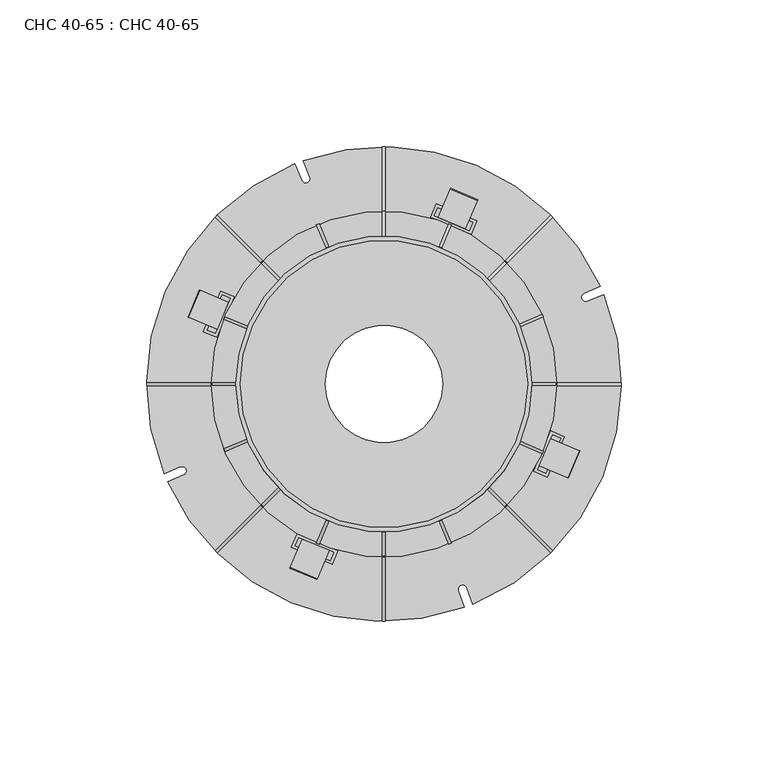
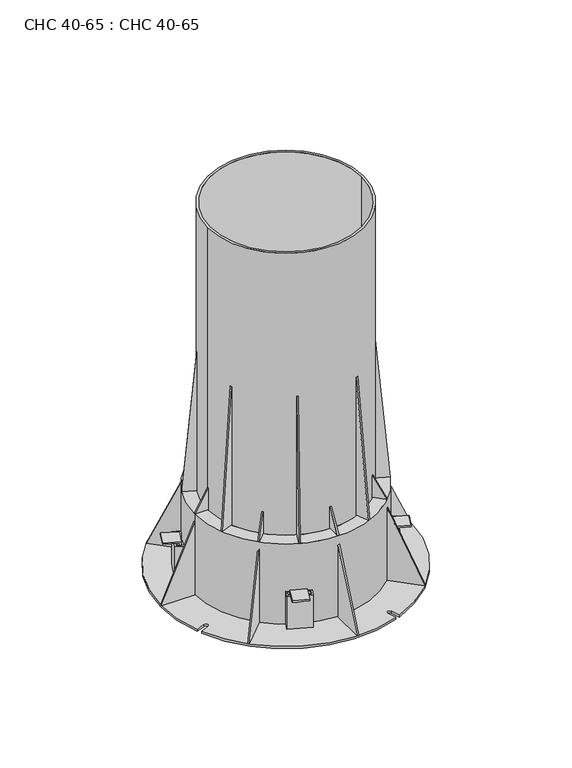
"""IFC4 building model written with IfcOpenShell, lengths in millimetres: proxy geometry, CHC 40-65 : CHC 40-65."""

import ifcopenshell
import ifcopenshell.guid

model = None  # the IFC model being written
_history = None  # IfcOwnerHistory: only IFC2X3 demands one
_inside = {}  # id of a spatial element -> (the spatial element, [elements in it])
_under = {}  # id of a project, library or spatial element -> (it, [spatial elements below it])
_declared = {}  # id of a project -> (the project, [libraries it declares])
_typed = {}  # id of a type object -> (the type object, [elements of that type])
_made_of = {}  # id of a material, layer set ... -> (it, [elements and type objects made of it])


def new_model(schema):
    """Start an empty IFC model of exactly this schema.

    Asked for "IFC4X3", IfcOpenShell would pick the latest addendum, in which some entities
    have other attributes; the version numbers below select the first issue.
    IFC2X3 requires an IfcOwnerHistory on every rooted entity: one is made here for all.
    """
    global model, _history
    if schema == "IFC4X3":
        model = ifcopenshell.file(schema_version=(4, 3, 0, 0))
    else:
        model = ifcopenshell.file(schema=schema)
    _inside.clear()
    _under.clear()
    _declared.clear()
    _typed.clear()
    _made_of.clear()
    _history = None
    if model.schema == "IFC2X3":
        org = make("IfcOrganization", Name="unknown")
        user = make(
            "IfcPersonAndOrganization",
            ThePerson=make("IfcPerson", FamilyName="unknown"),
            TheOrganization=org,
        )
        app = make(
            "IfcApplication",
            ApplicationDeveloper=org,
            Version="unknown",
            ApplicationFullName="unknown",
            ApplicationIdentifier="unknown",
        )
        _history = make(
            "IfcOwnerHistory",
            OwningUser=user,
            OwningApplication=app,
            ChangeAction="ADDED",
            CreationDate=0,
        )
    return model


def make(cls, **values):
    """One entity of the class cls with the attributes given. An attribute that is None is left unset."""
    return model.create_entity(
        cls, **{name: value for name, value in values.items() if value is not None}
    )


def rooted(cls, **values):
    """An entity with a GlobalId (a new one), such as an element, a storey or a relation."""
    return make(cls, GlobalId=ifcopenshell.guid.new(), OwnerHistory=_history, **values)


def si_unit(unit_type, name, prefix=None):
    """IfcSIUnit, for example si_unit("LENGTHUNIT", "METRE", prefix="MILLI")."""
    return make("IfcSIUnit", UnitType=unit_type, Prefix=prefix, Name=name)


def assignment(units):
    """IfcUnitAssignment: the units of a project."""
    return None if units is None else make("IfcUnitAssignment", Units=units)


def point(xyz):
    """IfcCartesianPoint."""
    return None if xyz is None else make("IfcCartesianPoint", Coordinates=xyz)


def direction(xyz):
    """IfcDirection."""
    return None if xyz is None else make("IfcDirection", DirectionRatios=xyz)


def frame(location, z_axis=None, x_axis=None):
    """IfcAxis2Placement3D, a coordinate frame: its origin and axes. An axis left out is left unset."""
    return make(
        "IfcAxis2Placement3D",
        Location=point(location),
        Axis=direction(z_axis),
        RefDirection=direction(x_axis),
    )


def frame_2d(location, x_axis=None):
    """IfcAxis2Placement2D, a coordinate frame in the plane: its origin and x axis."""
    return make(
        "IfcAxis2Placement2D", Location=point(location), RefDirection=direction(x_axis)
    )


def origin():
    """The frame at (0, 0, 0) with its axes left unset."""
    return frame((0.0, 0.0, 0.0))


def origin_with_axes():
    """The frame at (0, 0, 0) with the z axis (0, 0, 1) and the x axis (1, 0, 0) written out."""
    return frame((0.0, 0.0, 0.0), z_axis=(0.0, 0.0, 1.0), x_axis=(1.0, 0.0, 0.0))


def origin_2d():
    """The frame at (0, 0) in the plane with its x axis left unset."""
    return frame_2d((0.0, 0.0))


def place(relative_to, where):
    """IfcLocalPlacement: puts the frame where relative to a parent placement (None: the world)."""
    return make(
        "IfcLocalPlacement", PlacementRelTo=relative_to, RelativePlacement=where
    )


def context(
    kind, dimensions, precision=None, world=None, true_north=None, identifier=None
):
    """IfcGeometricRepresentationContext, for example the 3D "Model" context."""
    return make(
        "IfcGeometricRepresentationContext",
        ContextIdentifier=identifier,
        ContextType=kind,
        CoordinateSpaceDimension=dimensions,
        Precision=precision,
        WorldCoordinateSystem=world,
        TrueNorth=true_north,
    )


def project(units=None, contexts=None):
    """IfcProject with its units and contexts."""
    return rooted(
        "IfcProject",
        Name="project",
        RepresentationContexts=contexts,
        UnitsInContext=assignment(units),
    )


def spatial(cls, under=None, at=None, **own):
    """A site, building, storey or space (cls), placed at a placement, below another one or the project."""
    s = rooted(cls, ObjectPlacement=at, **own)
    if under is not None:
        _under.setdefault(under.id(), (under, []))[1].append(s)
    return s


def polyline(points):
    """IfcPolyline through the points."""
    return make("IfcPolyline", Points=[point(p) for p in points])


def circle_curve(where, radius):
    """IfcCircle in the frame where."""
    return make("IfcCircle", Position=where, Radius=radius)


def ellipse_curve(where, semi_axis1, semi_axis2):
    """IfcEllipse in the frame where."""
    return make(
        "IfcEllipse", Position=where, SemiAxis1=semi_axis1, SemiAxis2=semi_axis2
    )


def trimmed(basis, trim1, trim2, sense, master):
    """IfcTrimmedCurve: the piece of a basis curve between two trims."""
    return make(
        "IfcTrimmedCurve",
        BasisCurve=basis,
        Trim1=trim1,
        Trim2=trim2,
        SenseAgreement=sense,
        MasterRepresentation=master,
    )


def segment(curve, same_sense, transition):
    """IfcCompositeCurveSegment."""
    return make(
        "IfcCompositeCurveSegment",
        Transition=transition,
        SameSense=same_sense,
        ParentCurve=curve,
    )


def composite_curve(segments, self_intersect=None):
    """IfcCompositeCurve: segments joined end to end."""
    return make("IfcCompositeCurve", Segments=segments, SelfIntersect=self_intersect)


def outline(outer, holes=None, kind="AREA"):
    """IfcArbitraryClosedProfileDef: a profile drawn as a closed curve; with holes, ...WithVoids."""
    if holes is None:
        return make("IfcArbitraryClosedProfileDef", ProfileType=kind, OuterCurve=outer)
    return make(
        "IfcArbitraryProfileDefWithVoids",
        ProfileType=kind,
        OuterCurve=outer,
        InnerCurves=holes,
    )


def extrude(swept, where, along, depth):
    """IfcExtrudedAreaSolid: the profile swept, set in the frame where, extruded along a direction by depth."""
    return make(
        "IfcExtrudedAreaSolid",
        SweptArea=swept,
        Position=where,
        ExtrudedDirection=direction(along),
        Depth=depth,
    )


def shape(context_of_items, identifier, shape_type, items):
    """IfcShapeRepresentation: the items that make up one representation, for example the "Body"."""
    return make(
        "IfcShapeRepresentation",
        ContextOfItems=context_of_items,
        RepresentationIdentifier=identifier,
        RepresentationType=shape_type,
        Items=items,
    )


def source(mapping_origin, context_of_items, identifier, shape_type, items):
    """IfcRepresentationMap: a shape defined once, which mapped items show again and again."""
    return make(
        "IfcRepresentationMap",
        MappingOrigin=mapping_origin,
        MappedRepresentation=shape(context_of_items, identifier, shape_type, items),
    )


def transform(
    local_origin,
    x_axis=None,
    y_axis=None,
    z_axis=None,
    scale=None,
    scale2=None,
    scale3=None,
    uniform=True,
):
    """IfcCartesianTransformationOperator3D, or its non-uniform kind. x_axis, y_axis, z_axis: its Axis1, 2, 3."""
    if uniform:
        return make(
            "IfcCartesianTransformationOperator3D",
            Axis1=direction(x_axis),
            Axis2=direction(y_axis),
            LocalOrigin=point(local_origin),
            Scale=scale,
            Axis3=direction(z_axis),
        )
    return make(
        "IfcCartesianTransformationOperator3DnonUniform",
        Axis1=direction(x_axis),
        Axis2=direction(y_axis),
        LocalOrigin=point(local_origin),
        Scale=scale,
        Axis3=direction(z_axis),
        Scale2=scale2,
        Scale3=scale3,
    )


def mapped(mapping_source, mapping_target):
    """IfcMappedItem: shows the shape of a source again, moved by a transform."""
    return make(
        "IfcMappedItem", MappingSource=mapping_source, MappingTarget=mapping_target
    )


def made_of(thing, what):
    """Note that an element or type object is made of a material, layer set ...; save() writes the relation."""
    if what is not None:
        _made_of.setdefault(what.id(), (what, []))[1].append(thing)
    return thing


def element(
    cls,
    number,
    at=None,
    inside=None,
    cuts=None,
    type_object=None,
    material=None,
    context=None,
    identifier="Body",
    shape_type=None,
    held_by="IfcProductDefinitionShape",
    body=None,
    shapes=None,
    **own,
):
    """One element of the class cls, such as IfcWall. Its Tag is "e" and its number.

    at: its placement. inside: the storey or other place that contains it. cuts: it is an
    opening in that element (IfcRelVoidsElement). A single representation is given by context,
    identifier, shape_type and body (its items); several are given by shapes. held_by: the class
    of the entity that holds the representations. save() writes the other relations.
    """
    e = rooted(cls, Tag="e%d" % number, ObjectPlacement=at, **own)
    if body is not None:
        shapes = [shape(context, identifier, shape_type, body)]
    if shapes is not None:
        e.Representation = make(held_by, Representations=shapes)
    if inside is not None:
        _inside.setdefault(inside.id(), (inside, []))[1].append(e)
    if cuts is not None:
        rooted(
            "IfcRelVoidsElement", RelatingBuildingElement=cuts, RelatedOpeningElement=e
        )
    if type_object is not None:
        _typed.setdefault(type_object.id(), (type_object, []))[1].append(e)
    return made_of(e, material)


def aggregate(whole, parts):
    """IfcRelAggregates: a whole, such as a stair, and the parts it consists of."""
    return rooted("IfcRelAggregates", RelatingObject=whole, RelatedObjects=parts)


def save(model, path):
    """Write the relations noted so far, then the file.

    IfcRelAggregates (storeys below a building ...), IfcRelContainedInSpatialStructure (elements
    in a storey), IfcRelDefinesByType, IfcRelAssociatesMaterial and IfcRelDeclares: one each for
    every whole, place, type object, material and project.
    """
    for whole, parts in _under.values():
        aggregate(whole, parts)
    for where, things in _inside.values():
        rooted(
            "IfcRelContainedInSpatialStructure",
            RelatedElements=things,
            RelatingStructure=where,
        )
    for kind, things in _typed.values():
        rooted("IfcRelDefinesByType", RelatedObjects=things, RelatingType=kind)
    for what, things in _made_of.values():
        rooted("IfcRelAssociatesMaterial", RelatedObjects=things, RelatingMaterial=what)
    for by, libraries in _declared.values():
        rooted("IfcRelDeclares", RelatingContext=by, RelatedDefinitions=libraries)
    model.write(path)


def plane_surface(at):
    """IfcPlane: the flat surface through the origin of the frame at, square to its z axis."""
    return make("IfcPlane", Position=at)


def cylinder_surface(at, radius):
    """IfcCylindricalSurface: all points at the distance radius from the z axis of the frame at."""
    return make("IfcCylindricalSurface", Position=at, Radius=radius)


def revolved_surface(curve, axis_point, axis_direction):
    """IfcSurfaceOfRevolution: the curve turned about the line through axis_point along axis_direction."""
    return make(
        "IfcSurfaceOfRevolution",
        SweptCurve=make("IfcArbitraryOpenProfileDef", ProfileType="CURVE", Curve=curve),
        AxisPosition=make("IfcAxis1Placement", Location=point(axis_point), Axis=direction(axis_direction)),
    )


def extruded_surface(curve, direction_of_extrusion, depth):
    """IfcSurfaceOfLinearExtrusion: the curve pushed along a direction by depth."""
    return make(
        "IfcSurfaceOfLinearExtrusion",
        SweptCurve=make("IfcArbitraryOpenProfileDef", ProfileType="CURVE", Curve=curve),
        ExtrudedDirection=direction(direction_of_extrusion),
        Depth=depth,
    )


def advanced_brep(points, edges, surfaces, faces):
    """IfcAdvancedBrep: a solid bounded by faces that lie on surfaces and meet in shared edges.

    An edge is (start, end): straight between two places in points (the first is 0);
    or (start, end, curve); or (start, end, curve, False) where it runs against its curve.
    A face is (place in surfaces, loops), or (place, loops, False) where it looks against
    its surface's normal. A loop lists edges by number (the first is 1), with a minus sign
    where the edge is run from its end to its start. The first loop is the outer one.
    """
    corners = [point(p) for p in points]
    vertices = [make("IfcVertexPoint", VertexGeometry=c) for c in corners]
    made = []
    for start, end, *more in edges:
        made.append(
            make(
                "IfcEdgeCurve",
                EdgeStart=vertices[start],
                EdgeEnd=vertices[end],
                EdgeGeometry=more[0] if more else make("IfcPolyline", Points=[corners[start], corners[end]]),
                SameSense=more[1] if len(more) > 1 else True,
            )
        )
    hull = []
    for where, loops, *sense in faces:
        bounds = []
        for j, loop in enumerate(loops):
            ring = [make("IfcOrientedEdge", EdgeElement=made[abs(k) - 1], Orientation=k > 0) for k in loop]
            bounds.append(
                make(
                    "IfcFaceOuterBound" if j == 0 else "IfcFaceBound",
                    Bound=make("IfcEdgeLoop", EdgeList=ring),
                    Orientation=True,
                )
            )
        hull.append(make("IfcAdvancedFace", Bounds=bounds, FaceSurface=surfaces[where], SameSense=sense[0] if sense else True))
    return make("IfcAdvancedBrep", Outer=make("IfcClosedShell", CfsFaces=hull))


def chc_40_65_chc_40_65_852ca478(model_context):
    return source(origin(), model_context, "Body", "SolidModel", [
        advanced_brep(
        [(59.0, 0.0, 56.5), (-59.0, 0.0, 56.5), (-50.5, 0.0, 56.5), (50.5, 0.0, 56.5), (59.0, 0.0, 1.5), (-59.0, 0.0, 1.5), (40.0, 0.0, 1.5), (-40.0, 0.0, 1.5), (-50.5, 0.0, 39.0), (50.5, 0.0, 39.0), (40.0, 0.0, 39.0), (-40.0, 0.0, 39.0)],
        [
            (0, 1, circle_curve(frame((0.0, 0.0, 56.5), z_axis=(0.0, 0.0, 1.0), x_axis=(1.0, 0.0, 0.0)), 59.0)),
            (1, 0, circle_curve(frame((0.0, 0.0, 56.5), z_axis=(0.0, 0.0, 1.0), x_axis=(1.0, 0.0, 0.0)), 59.0)),
            (2, 3, circle_curve(frame((0.0, 0.0, 56.5), z_axis=(0.0, 0.0, -1.0), x_axis=(1.0, 0.0, 0.0)), 50.5)),
            (3, 2, circle_curve(frame((0.0, 0.0, 56.5), z_axis=(0.0, 0.0, -1.0), x_axis=(1.0, 0.0, 0.0)), 50.5)),
            (4, 5, circle_curve(frame((0.0, 0.0, 1.5), z_axis=(0.0, 0.0, -1.0), x_axis=(1.0, 0.0, 0.0)), 59.0)),
            (5, 4, circle_curve(frame((0.0, 0.0, 1.5), z_axis=(0.0, 0.0, -1.0), x_axis=(1.0, 0.0, 0.0)), 59.0)),
            (6, 7, circle_curve(frame((0.0, 0.0, 1.5), z_axis=(0.0, 0.0, 1.0), x_axis=(1.0, 0.0, 0.0)), 40.0)),
            (7, 6, circle_curve(frame((0.0, 0.0, 1.5), z_axis=(0.0, 0.0, 1.0), x_axis=(1.0, 0.0, 0.0)), 40.0)),
            (2, 8),
            (8, 9, circle_curve(frame((0.0, 0.0, 39.0), z_axis=(0.0, 0.0, -1.0), x_axis=(1.0, 0.0, 0.0)), 50.5)),
            (9, 3),
            (9, 8, circle_curve(frame((0.0, 0.0, 39.0), z_axis=(0.0, 0.0, -1.0), x_axis=(1.0, 0.0, 0.0)), 50.5)),
            (0, 4),
            (5, 1),
            (10, 11, circle_curve(frame((0.0, 0.0, 39.0), z_axis=(0.0, 0.0, -1.0), x_axis=(1.0, 0.0, 0.0)), 40.0)),
            (11, 10, circle_curve(frame((0.0, 0.0, 39.0), z_axis=(0.0, 0.0, -1.0), x_axis=(1.0, 0.0, 0.0)), 40.0)),
            (10, 6),
            (7, 11),
        ],
        [
            plane_surface(frame((50.5, 0.0, 56.5), z_axis=(0.0, 0.0, 1.0), x_axis=(0.0, -1.0, 0.0))),
            plane_surface(frame((50.5, 0.0, 1.5), z_axis=(0.0, 0.0, -1.0), x_axis=(0.0, 1.0, 0.0))),
            revolved_surface(polyline([(50.5, 0.0, 39.0), (50.5, 0.0, 56.5)]), (0.0, 0.0, 1.5), (0.0, 0.0, -1.0)),
            cylinder_surface(frame((0.0, 0.0, 1.5), z_axis=(0.0, 0.0, 1.0), x_axis=(1.0, 0.0, 0.0)), 59.0),
            plane_surface(frame((54.0, 0.0, 39.0), z_axis=(0.0, 0.0, 1.0), x_axis=(0.0, 1.0, 0.0))),
            revolved_surface(polyline([(40.0, 0.0, 1.5), (40.0, 0.0, 39.0)]), (0.0, 0.0, 1.0), (0.0, 0.0, -1.0)),
        ],
        [
            (0, [[1, 2], [3, 4]]),
            (1, [[5, 6], [7, 8]]),
            (2, [[-3, 9, 10, 11]]),
            (2, [[-4, -11, 12, -9]]),
            (3, [[-1, 13, -6, 14]]),
            (3, [[-2, -14, -5, -13]]),
            (4, [[-10, -12], [15, 16]]),
            (5, [[-15, 17, -8, 18]]),
            (5, [[-16, -18, -7, -17]]),
        ],
    ),
        extrude(outline(composite_curve([segment(trimmed(circle_curve(origin_2d(), 52.0), [point((24.7583425, 45.7277211))], [point((49.6213596, -15.5473685))], False, "CARTESIAN"), True, "CONTINUOUS"), segment(polyline([(49.6213596, -15.5473685), (56.7505693, -18.5609991), (52.8569897, -27.7718643), (45.72778, -24.7582337)]), True, "CONTINUOUS"), segment(trimmed(circle_curve(origin_2d(), 52.0), [point((45.72778, -24.7582337))], [point((-15.6888479, -49.5768096))], False, "CARTESIAN"), True, "CONTINUOUS"), segment(polyline([(-15.6888479, -49.5768096), (-18.6913381, -56.6797235), (-27.9022148, -52.7861712), (-24.8886054, -45.6569526)]), True, "CONTINUOUS"), segment(trimmed(circle_curve(origin_2d(), 52.0), [point((-24.8886054, -45.6569526))], [point((-49.6193646, 15.5537345))], False, "CARTESIAN"), True, "CONTINUOUS"), segment(polyline([(-49.6193646, 15.5537345), (-56.7481876, 18.5682797), (-52.8534263, 27.7786453), (-45.7246033, 24.7641001)]), True, "CONTINUOUS"), segment(trimmed(circle_curve(origin_2d(), 52.0), [point((-45.7246033, 24.7641001))], [point((15.5474866, 49.6213226))], False, "CARTESIAN"), True, "CONTINUOUS"), segment(polyline([(15.5474866, 49.6213226), (18.5611342, 56.7505251), (27.7719901, 52.8569236), (24.7583425, 45.7277211)]), True, "CONTINUOUS")], self_intersect=False), holes=[composite_curve([segment(trimmed(circle_curve(origin_2d(), 40.0), [point((-40.0, 0.0))], [point((40.0, 0.0))], True, "CARTESIAN"), True, "CONTINUOUS"), segment(trimmed(circle_curve(origin_2d(), 40.0), [point((40.0, 0.0))], [point((-40.0, 0.0))], True, "CARTESIAN"), True, "CONTINUOUS")], self_intersect=False)]), frame((0.0, 0.0, 5.0), z_axis=(0.0, 0.0, 1.0), x_axis=(1.0, 0.0, 0.0)), (0.0, 0.0, 1.0), 1.0),
        extrude(outline(polyline([(51.5, -59.0), (1.5, -81.0024753), (1.5, -59.0), (51.5, -59.0)])), frame((0.0, -0.5, 0.0), z_axis=(0.0, 1.0, 0.0), x_axis=(0.0, 0.0, 1.0)), (0.0, 0.0, 1.0), 1.0),
        extrude(outline(polyline([(0.0, 0.0), (54.6260011, 0.0), (45.7657516, -20.1369307), (0.0, 0.0)])), frame((-42.0711032, 41.3639964, 51.5), z_axis=(0.7071067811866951, 0.7071067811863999, 0.0), x_axis=(-0.28477920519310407, 0.28477920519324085, -0.9153150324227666)), (0.0, 0.0, 1.0), 1.0),
        extrude(outline(polyline([(50.0, 0.0), (0.0, -22.0), (0.0, 0.0), (50.0, 0.0)])), frame((-0.5, 58.9978813, 1.5), z_axis=(1.0, -2.8820179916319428e-11, -9.285588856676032e-12), x_axis=(9.285588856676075e-12, 0.0, 1.0)), (0.0, 0.0, 1.0), 1.0),
        extrude(outline(polyline([(-50.0, 0.0), (0.0, 0.0), (0.0, -22.0), (-50.0, 0.0)])), frame((42.0711032, 41.3639964, 1.5), z_axis=(-0.7071067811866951, 0.7071067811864, 0.0), x_axis=(0.0, 0.0, -1.0)), (0.0, 0.0, 1.0), 1.0),
        extrude(outline(polyline([(51.5, 59.0), (1.5, 59.0), (1.5, 81.0), (51.5, 59.0)])), frame((0.0, -0.5, 0.0), z_axis=(0.0, 1.0, 0.0), x_axis=(0.0, 0.0, 1.0)), (0.0, 0.0, 1.0), 1.0),
        extrude(outline(polyline([(0.0, 0.0), (-45.7657516, -20.1369307), (-54.6260011, 0.0), (0.0, 0.0)])), frame((-0.5, -58.9978813, 51.5), z_axis=(1.0, 2.8820179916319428e-11, -9.28558885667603e-12), x_axis=(-3.1077602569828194e-12, 0.4027386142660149, 0.9153150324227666)), (0.0, 0.0, 1.0), 1.0),
        extrude(outline(polyline([(0.0, 0.0), (-45.7657516, -20.1369307), (-54.6260011, 0.0), (0.0, 0.0)])), frame((41.3639964, -42.0711032, 51.5), z_axis=(0.7071067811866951, 0.7071067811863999, 0.0), x_axis=(-0.28477920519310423, 0.28477920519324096, 0.9153150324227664)), (0.0, 0.0, 1.0), 1.0),
        extrude(outline(polyline([(50.0, 0.0), (0.0, -22.0024753), (0.0, 0.0), (50.0, 0.0)])), frame((-41.3639964, -42.0711032, 1.5), z_axis=(-0.7071067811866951, 0.7071067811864, 0.0), x_axis=(0.0, 0.0, 1.0)), (0.0, 0.0, 1.0), 1.0),
        extrude(outline(polyline([(-95.3795051, 0.0), (0.0, 0.0), (-0.7575003, -8.4661794), (-95.3795051, 0.0)])), frame((-54.6594977, 22.0995095, 56.5), z_axis=(0.382691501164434, 0.9238761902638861, 9.285593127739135e-12), x_axis=(-0.08233370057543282, 0.03410457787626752, -0.9960211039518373)), (0.0, 0.0, 1.0), 1.0),
        extrude(outline(polyline([(95.0, 0.0), (0.0, -8.5), (0.0, 0.0), (95.0, 0.0)])), frame((-46.4238586, -19.7705079, 56.5), z_axis=(-0.3826915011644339, 0.923876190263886, -9.285588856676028e-12), x_axis=(-3.5549335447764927e-12, 8.5781472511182e-12, 1.0)), (0.0, 0.0, 1.0), 1.0),
        extrude(outline(polyline([(95.3795051, 0.0), (0.7575003, -8.4661794), (0.0, 0.0), (95.3795051, 0.0)])), frame((23.0233857, 54.2768062, 56.5), z_axis=(-0.9238761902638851, 0.38269150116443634, -9.285593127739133e-12), x_axis=(-0.034104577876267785, -0.08233370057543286, 0.9960211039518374)), (0.0, 0.0, 1.0), 1.0),
        extrude(outline(polyline([(95.3795051, 0.0), (0.7575003, -8.4661794), (0.0, 0.0), (95.3795051, 0.0)])), frame((54.3572876, 22.9409087, 56.5), z_axis=(-0.39973159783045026, 0.9166322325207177, -9.285579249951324e-12), x_axis=(-0.08168813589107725, -0.03562315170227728, 0.9960211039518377)), (0.0, 0.0, 1.0), 1.0),
        extrude(outline(polyline([(95.0, 0.0), (0.0, -8.5), (0.0, 0.0), (95.0, 0.0)])), frame((-19.7705079, 46.4238586, 56.5), z_axis=(0.9238761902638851, 0.3826915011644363, -9.285588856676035e-12), x_axis=(8.578147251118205e-12, 3.5549335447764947e-12, 1.0)), (0.0, 0.0, 1.0), 1.0),
        extrude(outline(polyline([(-95.0, 0.0), (0.0, 0.0), (0.0, -8.5), (-95.0, 0.0)])), frame((18.8466317, -46.8065501, 56.5), z_axis=(0.9238761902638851, 0.3826915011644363, 9.285588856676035e-12), x_axis=(8.578147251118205e-12, 3.5549335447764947e-12, -1.0)), (0.0, 0.0, 1.0), 1.0),
        extrude(outline(polyline([(-95.0, 0.0), (0.0, 0.0), (0.0, -8.5), (-95.0, 0.0)])), frame((46.166182, -20.4598223, 56.5), z_axis=(0.3997315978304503, 0.9166322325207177, 9.285588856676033e-12), x_axis=(3.710334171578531e-12, 8.512084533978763e-12, -1.0)), (0.0, 0.0, 1.0), 1.0),
        extrude(outline(polyline([(-95.3795051, 0.0), (0.0, 0.0), (-0.7575003, -8.4661794), (-95.3795051, 0.0)])), frame((-22.0995095, -54.6594977, 56.5), z_axis=(-0.9238761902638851, 0.38269150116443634, 9.285593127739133e-12), x_axis=(-0.034104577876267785, -0.08233370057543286, -0.9960211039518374)), (0.0, 0.0, 1.0), 1.0),
        extrude(outline(polyline([(0.0, 0.0), (-13.0503328, -7.3951886), (-17.2409397, 0.0), (0.0, 0.0)])), frame((35.3535888, -36.0606955, 71.5), z_axis=(0.7071067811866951, 0.7071067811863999, 0.0), x_axis=(-0.3486125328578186, 0.3486125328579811, 0.8700221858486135)), (0.0, 0.0, 1.0), 1.0),
        extrude(outline(polyline([(15.0, 0.0), (0.0, -8.5), (0.0, 0.0), (15.0, 0.0)])), frame((-35.3535888, -36.0606955, 56.5), z_axis=(-0.7071067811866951, 0.7071067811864, 0.0), x_axis=(0.0, 0.0, 1.0)), (0.0, 0.0, 1.0), 1.0),
        extrude(outline(polyline([(-15.0, 0.0), (0.0, 0.0), (0.0, -8.5), (-15.0, 0.0)])), frame((36.0606955, 35.3535888, 56.5), z_axis=(-0.7071067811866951, 0.7071067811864, 0.0), x_axis=(0.0, 0.0, -1.0)), (0.0, 0.0, 1.0), 1.0),
        extrude(outline(polyline([(0.0, 0.0), (17.2409397, 0.0), (13.0503328, -7.3951886), (0.0, 0.0)])), frame((-36.0606955, 35.3535888, 71.5), z_axis=(0.7071067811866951, 0.7071067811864, 0.0), x_axis=(-0.3486125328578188, 0.3486125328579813, -0.8700221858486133)), (0.0, 0.0, 1.0), 1.0),
        extrude(outline(polyline([(71.5, -50.5), (56.5, -59.0), (56.5, -50.5), (71.5, -50.5)])), frame((0.0, -0.5, 0.0), z_axis=(0.0, 1.0, 0.0), x_axis=(0.0, 0.0, 1.0)), (0.0, 0.0, 1.0), 1.0),
        extrude(outline(polyline([(71.5, 50.5), (56.5, 50.5), (56.5, 59.0), (71.5, 50.5)])), frame((0.0, -0.5, 0.0), z_axis=(0.0, 1.0, 0.0), x_axis=(0.0, 0.0, 1.0)), (0.0, 0.0, 1.0), 1.0),
        extrude(outline(polyline([(0.0, 0.0), (-13.0503328, -7.3951886), (-17.2409396, 0.0), (0.0, 0.0)])), frame((-0.5, -50.4978813, 71.5), z_axis=(1.0, 2.8820179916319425e-11, -9.285588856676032e-12), x_axis=(-6.130042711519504e-12, 0.49301257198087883, 0.8700221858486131)), (0.0, 0.0, 1.0), 1.0),
        extrude(outline(polyline([(15.0, 0.0), (0.0, -8.5), (0.0, 0.0), (15.0, 0.0)])), frame((-0.5, 50.4978813, 56.5), z_axis=(1.0, -2.8820179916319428e-11, -9.285588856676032e-12), x_axis=(9.28558885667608e-12, 0.0, 1.0)), (0.0, 0.0, 1.0), 1.0),
        advanced_brep(
        [(-18.7307472, -56.773359, 25.4), (-22.8189851, -66.4447762, 25.4), (-22.8189851, -66.4447762, 24.4), (-19.1201032, -57.6944464, 24.4), (-19.1201032, -57.6944464, 1.0), (-18.7307472, -56.773359, 1.0), (-27.9416207, -52.8797991, 25.4), (-27.9416207, -52.8797991, 1.0), (-28.3309767, -53.8008865, 1.0), (-28.3309767, -53.8008865, 24.4), (-32.0298586, -62.5512163, 24.4), (-32.0298586, -62.5512163, 25.4)],
        [
            (0, 1),
            (1, 2, ellipse_curve(frame((-22.8189851, -66.4447762, 24.9), z_axis=(0.9210873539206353, -0.38935598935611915, 0.0), x_axis=(0.0, 0.0, 1.0)), 0.5, 0.25)),
            (2, 3),
            (3, 4),
            (4, 5),
            (5, 0),
            (6, 7),
            (7, 8),
            (8, 9),
            (9, 10),
            (10, 11, ellipse_curve(frame((-32.0298586, -62.5512163, 24.9), z_axis=(-0.9210873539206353, 0.38935598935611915, 0.0), x_axis=(0.0, 0.0, 1.0)), 0.5, 0.25)),
            (11, 6),
            (0, 6),
            (11, 1),
            (10, 2),
            (9, 3),
            (8, 4),
            (7, 5),
        ],
        [
            plane_surface(frame((-18.7307472, -56.773359, 25.4), z_axis=(0.9210873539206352, -0.38935598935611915, 0.0), x_axis=(-0.38935598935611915, -0.9210873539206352, 0.0))),
            plane_surface(frame((-27.9416207, -52.8797991, 25.4), z_axis=(-0.9210873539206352, 0.38935598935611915, 0.0), x_axis=(0.38935598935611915, 0.9210873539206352, 0.0))),
            plane_surface(frame((-18.7307472, -56.773359, 25.4), z_axis=(0.0, 0.0, 1.0), x_axis=(-0.9210873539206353, 0.38935598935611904, 0.0))),
            extruded_surface(trimmed(ellipse_curve(frame((-41.2407321, -58.6576564, 24.9), z_axis=(0.9210873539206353, -0.38935598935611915, 0.0), x_axis=(0.0, 0.0, 1.0)), 0.5, 0.25), [point((-41.2407321, -58.6576564, 25.4))], [point((-41.2407321, -58.6576564, 24.4))], True, "CARTESIAN"), (9.210873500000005, -3.8935598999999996, 0.0), 9.999999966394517),
            plane_surface(frame((-22.8189851, -66.4447762, 24.4), z_axis=(0.0, 0.0, -1.0), x_axis=(-0.9210873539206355, 0.3893559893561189, 0.0))),
            plane_surface(frame((-19.1201032, -57.6944464, 24.4), z_axis=(-0.3893559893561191, -0.9210873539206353, 0.0), x_axis=(-0.9210873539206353, 0.3893559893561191, 0.0))),
            plane_surface(frame((-19.1201032, -57.6944464, 1.0), z_axis=(0.0, 0.0, -1.0), x_axis=(-0.9210873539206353, 0.3893559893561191, 0.0))),
            plane_surface(frame((-18.7307472, -56.773359, 1.0), z_axis=(0.38935598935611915, 0.9210873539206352, 0.0), x_axis=(-0.9210873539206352, 0.38935598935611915, 0.0))),
        ],
        [
            (0, [[1, 2, 3, 4, 5, 6]]),
            (1, [[7, 8, 9, 10, 11, 12]]),
            (2, [[-1, 13, -12, 14]]),
            (3, [[-2, -14, -11, 15]]),
            (4, [[-3, -15, -10, 16]]),
            (5, [[-4, -16, -9, 17]]),
            (6, [[-5, -17, -8, 18]]),
            (7, [[-6, -18, -7, -13]]),
        ],
    ),
        extrude(outline(polyline([(-29.6103991, -51.1254986), (-15.7779457, -56.927501), (-17.7119465, -61.5383188), (-31.5443999, -55.7363164), (-29.6103991, -51.1254986)]), holes=[polyline([(-29.0750357, -52.4344623), (-30.2354362, -55.200953), (-18.2473099, -60.229355), (-17.0869094, -57.4628644), (-29.0750357, -52.4344623)])]), frame((0.0, 0.0, 1.5), z_axis=(0.0, 0.0, 1.0), x_axis=(1.0, 0.0, 0.0)), (0.0, 0.0, 1.0), 22.5),
        extrude(outline(polyline([(15.9061908, 56.8967888), (17.8551838, 61.5012895), (31.6686857, 55.6543105), (29.7196927, 51.0498098), (15.9061908, 56.8967888)]), holes=[polyline([(17.2168895, 57.4278903), (29.1885912, 52.3605086), (30.357987, 55.123209), (18.3862853, 60.1905907), (17.2168895, 57.4278903)])]), frame((0.0, 0.0, 1.5), z_axis=(0.0, 0.0, 1.0), x_axis=(1.0, 0.0, 0.0)), (0.0, 0.0, 1.0), 22.5),
        advanced_brep(
        [(56.9399677, -18.6410609, 25.4), (66.6113762, -22.7293195, 25.4), (66.6113762, -22.7293195, 24.4), (57.8610542, -19.0304188, 24.4), (57.8610542, -19.0304188, 1.0), (56.9399677, -18.6410609, 1.0), (53.0463881, -27.8519261, 25.4), (53.0463881, -27.8519261, 1.0), (53.9674746, -28.241284, 1.0), (53.9674746, -28.241284, 24.4), (62.7177965, -31.9401847, 24.4), (62.7177965, -31.9401847, 25.4)],
        [
            (0, 1),
            (1, 2, ellipse_curve(frame((66.6113762, -22.7293195, 24.9), z_axis=(0.38935796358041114, 0.9210865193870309, 0.0), x_axis=(0.0, 0.0, 1.0)), 0.5, 0.25)),
            (2, 3),
            (3, 4),
            (4, 5),
            (5, 0),
            (6, 7),
            (7, 8),
            (8, 9),
            (9, 10),
            (10, 11, ellipse_curve(frame((62.7177965, -31.9401847, 24.9), z_axis=(-0.38935796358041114, -0.9210865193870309, 0.0), x_axis=(0.0, 0.0, 1.0)), 0.5, 0.25)),
            (11, 6),
            (0, 6),
            (11, 1),
            (10, 2),
            (9, 3),
            (8, 4),
            (7, 5),
        ],
        [
            plane_surface(frame((56.9399677, -18.6410609, 25.4), z_axis=(0.3893579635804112, 0.921086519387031, 0.0), x_axis=(0.921086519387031, -0.3893579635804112, 0.0))),
            plane_surface(frame((53.0463881, -27.8519261, 25.4), z_axis=(-0.3893579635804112, -0.921086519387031, 0.0), x_axis=(-0.921086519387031, 0.3893579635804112, 0.0))),
            plane_surface(frame((56.9399677, -18.6410609, 25.4), z_axis=(0.0, 0.0, 1.0), x_axis=(-0.38935796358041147, -0.9210865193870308, 0.0))),
            extruded_surface(trimmed(ellipse_curve(frame((58.8242169, -41.1510499, 24.9), z_axis=(0.38935796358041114, 0.9210865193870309, 0.0), x_axis=(0.0, 0.0, 1.0)), 0.5, 0.25), [point((58.8242169, -41.1510499, 25.4))], [point((58.8242169, -41.1510499, 24.4))], True, "CARTESIAN"), (3.8935795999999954, 9.210865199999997, 0.0), 9.999999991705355),
            plane_surface(frame((66.6113762, -22.7293195, 24.4), z_axis=(0.0, 0.0, -1.0), x_axis=(-0.3893579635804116, -0.9210865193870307, 0.0))),
            plane_surface(frame((57.8610542, -19.0304188, 24.4), z_axis=(0.9210865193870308, -0.38935796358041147, 0.0), x_axis=(-0.38935796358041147, -0.9210865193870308, 0.0))),
            plane_surface(frame((57.8610542, -19.0304188, 1.0), z_axis=(0.0, 0.0, -1.0), x_axis=(-0.3893579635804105, -0.9210865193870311, 0.0))),
            plane_surface(frame((56.9399677, -18.6410609, 1.0), z_axis=(-0.9210865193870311, 0.38935796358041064, 0.0), x_axis=(-0.38935796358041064, -0.9210865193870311, 0.0))),
        ],
        [
            (0, [[1, 2, 3, 4, 5, 6]]),
            (1, [[7, 8, 9, 10, 11, 12]]),
            (2, [[-1, 13, -12, 14]]),
            (3, [[-2, -14, -11, 15]]),
            (4, [[-3, -15, -10, 16]]),
            (5, [[-4, -16, -9, 17]]),
            (6, [[-5, -17, -8, 18]]),
            (7, [[-6, -18, -7, -13]]),
        ],
    ),
        extrude(outline(polyline([(56.9848309, -15.9696441), (61.5893315, -17.9186371), (55.7423526, -31.7321391), (51.1378519, -29.7831461), (56.9848309, -15.9696441)]), holes=[polyline([(57.5159324, -17.2803428), (52.4485506, -29.2520445), (55.211251, -30.4214403), (60.2786328, -18.4497386), (57.5159324, -17.2803428)])]), frame((0.0, 0.0, 1.5), z_axis=(0.0, 0.0, 1.0), x_axis=(1.0, 0.0, 0.0)), (0.0, 0.0, 1.0), 22.5),
        advanced_brep(
        [(-56.9381578, 18.6486119, 25.4), (-66.6090417, 22.7381112, 25.4), (-66.6090417, 22.7381112, 24.4), (-57.8591944, 19.038088, 24.4), (-57.8591944, 19.038088, 1.0), (-56.9381578, 18.6486119, 1.0), (-53.0433965, 27.8589775, 25.4), (-53.0433965, 27.8589775, 1.0), (-53.9644331, 28.2484536, 1.0), (-53.9644331, 28.2484536, 24.4), (-62.7142804, 31.9484768, 24.4), (-62.7142804, 31.9484768, 25.4)],
        [
            (0, 1),
            (1, 2, ellipse_curve(frame((-66.6090417, 22.7381112, 24.9), z_axis=(-0.3894761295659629, -0.921036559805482, 0.0), x_axis=(0.0, 0.0, 1.0)), 0.5, 0.25)),
            (2, 3),
            (3, 4),
            (4, 5),
            (5, 0),
            (6, 7),
            (7, 8),
            (8, 9),
            (9, 10),
            (10, 11, ellipse_curve(frame((-62.7142804, 31.9484768, 24.9), z_axis=(0.3894761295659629, 0.921036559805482, 0.0), x_axis=(0.0, 0.0, 1.0)), 0.5, 0.25)),
            (11, 6),
            (0, 6),
            (11, 1),
            (10, 2),
            (9, 3),
            (8, 4),
            (7, 5),
        ],
        [
            plane_surface(frame((-56.9381578, 18.6486119, 25.4), z_axis=(-0.38947612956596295, -0.921036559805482, 0.0), x_axis=(-0.921036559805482, 0.38947612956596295, 0.0))),
            plane_surface(frame((-53.0433965, 27.8589775, 25.4), z_axis=(0.38947612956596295, 0.921036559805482, 0.0), x_axis=(0.921036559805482, -0.38947612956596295, 0.0))),
            plane_surface(frame((-56.9381578, 18.6486119, 25.4), z_axis=(0.0, 0.0, 1.0), x_axis=(0.38947612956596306, 0.9210365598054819, 0.0))),
            extruded_surface(trimmed(ellipse_curve(frame((-58.8195191, 41.1588424, 24.9), z_axis=(-0.3894761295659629, -0.921036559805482, 0.0), x_axis=(0.0, 0.0, 1.0)), 0.5, 0.25), [point((-58.8195191, 41.1588424, 25.4))], [point((-58.8195191, 41.1588424, 24.4))], True, "CARTESIAN"), (-3.894761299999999, -9.210365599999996, 0.0), 10.000000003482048),
            plane_surface(frame((-66.6090417, 22.7381112, 24.4), z_axis=(0.0, 0.0, -1.0000000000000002), x_axis=(0.3894761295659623, 0.9210365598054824, 0.0))),
            plane_surface(frame((-57.8591944, 19.038088, 24.4), z_axis=(-0.921036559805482, 0.389476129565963, 0.0), x_axis=(0.389476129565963, 0.921036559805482, 0.0))),
            plane_surface(frame((-57.8591944, 19.038088, 1.0), z_axis=(0.0, 0.0, -1.0), x_axis=(0.389476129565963, 0.921036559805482, 0.0))),
            plane_surface(frame((-56.9381578, 18.6486119, 1.0), z_axis=(0.9210365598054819, -0.38947612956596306, 0.0), x_axis=(0.38947612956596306, 0.9210365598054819, 0.0))),
        ],
        [
            (0, [[1, 2, 3, 4, 5, 6]]),
            (1, [[7, 8, 9, 10, 11, 12]]),
            (2, [[-1, 13, -12, 14]]),
            (3, [[-2, -14, -11, 15]]),
            (4, [[-3, -15, -10, 16]]),
            (5, [[-4, -16, -9, 17]]),
            (6, [[-5, -17, -8, 18]]),
            (7, [[-6, -18, -7, -13]]),
        ],
    ),
        extrude(outline(polyline([(-51.1462703, 29.7777667), (-56.9884123, 15.9622183), (-61.5935951, 17.9095989), (-55.7514531, 31.7251473), (-51.1462703, 29.7777667)]), holes=[polyline([(-52.456783, 29.2462063), (-55.2198927, 30.4146346), (-60.2830824, 18.4411594), (-57.5199727, 17.272731), (-52.456783, 29.2462063)])]), frame((0.0, 0.0, 1.5), z_axis=(0.0, 0.0, 1.0), x_axis=(1.0, 0.0, 0.0)), (0.0, 0.0, 1.0), 22.5),
        extrude(outline(composite_curve([segment(trimmed(circle_curve(origin_2d(), 50.0), [point((-50.0, 0.0))], [point((50.0, 0.0))], False, "CARTESIAN"), True, "CONTINUOUS"), segment(trimmed(circle_curve(origin_2d(), 50.0), [point((50.0, 0.0))], [point((-50.0, 0.0))], False, "CARTESIAN"), True, "CONTINUOUS")], self_intersect=False), holes=[composite_curve([segment(trimmed(circle_curve(origin_2d(), 20.0), [point((-20.0, 0.0))], [point((20.0, 0.0))], True, "CARTESIAN"), True, "CONTINUOUS"), segment(trimmed(circle_curve(origin_2d(), 20.0), [point((20.0, 0.0))], [point((-20.0, 0.0))], True, "CARTESIAN"), True, "CONTINUOUS")], self_intersect=False)]), frame((0.0, 0.0, 47.8963391), z_axis=(0.0, 0.0, 1.0), x_axis=(1.0, 0.0, 0.0)), (0.0, 0.0, 1.0), 1.0),
        extrude(outline(composite_curve([segment(trimmed(circle_curve(origin_2d(), 50.5), [point((-50.5, 0.0))], [point((50.5, 0.0))], False, "CARTESIAN"), True, "CONTINUOUS"), segment(trimmed(circle_curve(origin_2d(), 50.5), [point((50.5, 0.0))], [point((-50.5, 0.0))], False, "CARTESIAN"), True, "CONTINUOUS")], self_intersect=False), holes=[composite_curve([segment(trimmed(circle_curve(origin_2d(), 49.0), [point((-49.0, 0.0))], [point((49.0, 0.0))], True, "CARTESIAN"), True, "CONTINUOUS"), segment(trimmed(circle_curve(origin_2d(), 49.0), [point((49.0, 0.0))], [point((-49.0, 0.0))], True, "CARTESIAN"), True, "CONTINUOUS")], self_intersect=False)]), frame((0.0, 0.0, 56.5), z_axis=(0.0, 0.0, 1.0), x_axis=(1.0, 0.0, 0.0)), (0.0, 0.0, 1.0), 193.5),
        extrude(outline(composite_curve([segment(trimmed(circle_curve(origin_2d(), 81.0), [point((27.4835655, -76.1948399))], [point((-73.8376655, -33.3016388))], False, "CARTESIAN"), True, "CONTINUOUS"), segment(polyline([(-73.8376655, -33.3016388), (-68.2795164, -31.0171524)]), True, "CONTINUOUS"), segment(trimmed(circle_curve(frame_2d((-68.8497525, -29.6297697)), 1.5), [point((-68.2795164, -31.0171524))], [point((-69.4199885, -28.242387))], True, "CARTESIAN"), True, "CONTINUOUS"), segment(polyline([(-69.4199885, -28.242387), (-75.0203358, -30.5442174)]), True, "CONTINUOUS"), segment(trimmed(circle_curve(origin_2d(), 81.0), [point((-75.0203358, -30.5442174))], [point((-30.3580671, 75.0958571))], False, "CARTESIAN"), True, "CONTINUOUS"), segment(polyline([(-30.3580671, 75.0958571), (-28.0884926, 69.4816773)]), True, "CONTINUOUS"), segment(trimmed(circle_curve(frame_2d((-26.6978285, 70.0438637)), 1.5), [point((-28.0884926, 69.4816773))], [point((-25.3071645, 70.6060502))], True, "CARTESIAN"), True, "CONTINUOUS"), segment(polyline([(-25.3071645, 70.6060502), (-27.5559102, 76.1687062)]), True, "CONTINUOUS"), segment(trimmed(circle_curve(origin_2d(), 81.0), [point((-27.5559102, 76.1687062))], [point((73.8416448, 33.2928144))], False, "CARTESIAN"), True, "CONTINUOUS"), segment(polyline([(73.8416448, 33.2928144), (68.2858481, 31.0092949)]), True, "CONTINUOUS"), segment(trimmed(circle_curve(frame_2d((68.8560841, 29.6219122)), 1.5), [point((68.2858481, 31.0092949))], [point((69.4263202, 28.2345294))], True, "CARTESIAN"), True, "CONTINUOUS"), segment(polyline([(69.4263202, 28.2345294), (75.0239835, 30.5352568)]), True, "CONTINUOUS"), segment(trimmed(circle_curve(origin_2d(), 81.0), [point((75.0239835, 30.5352568))], [point((30.2867399, -75.1246523))], False, "CARTESIAN"), True, "CONTINUOUS"), segment(polyline([(30.2867399, -75.1246523), (28.2509203, -69.4805901)]), True, "CONTINUOUS"), segment(trimmed(circle_curve(frame_2d((26.8399047, -69.989545)), 1.5), [point((28.2509203, -69.4805901))], [point((25.4288892, -70.4984999))], True, "CARTESIAN"), True, "CONTINUOUS"), segment(polyline([(25.4288892, -70.4984999), (27.4835655, -76.1948399)]), True, "CONTINUOUS")], self_intersect=False), holes=[composite_curve([segment(polyline([(-56.7481876, 18.5682797), (-51.0071692, 16.1405915)]), True, "CONTINUOUS"), segment(trimmed(circle_curve(origin_2d(), 53.5), [point((-51.0071692, 16.1405915))], [point((-25.4754398, -47.0452119))], True, "CARTESIAN"), True, "CONTINUOUS"), segment(polyline([(-25.4754398, -47.0452119), (-27.9022148, -52.7861712), (-18.6940093, -56.6786033), (-16.2781336, -50.9634415)]), True, "CONTINUOUS"), segment(trimmed(circle_curve(origin_2d(), 53.5), [point((-16.2781336, -50.9634415))], [point((47.1156598, -25.3449126))], True, "CARTESIAN"), True, "CONTINUOUS"), segment(polyline([(47.1156598, -25.3449126), (52.8569897, -27.7718643), (56.7505693, -18.5609991), (51.0092395, -16.1340475)]), True, "CONTINUOUS"), segment(trimmed(circle_curve(origin_2d(), 53.5), [point((51.0092395, -16.1340475))], [point((25.3450248, 47.1155995))], True, "CARTESIAN"), True, "CONTINUOUS"), segment(polyline([(25.3450248, 47.1155995), (27.7719901, 52.8569236), (18.5611342, 56.7505251), (16.1341689, 51.0092011)]), True, "CONTINUOUS"), segment(trimmed(circle_curve(origin_2d(), 53.5), [point((16.1341689, 51.0092011))], [point((-47.1124079, 25.3509571))], True, "CARTESIAN"), True, "CONTINUOUS"), segment(polyline([(-47.1124079, 25.3509571), (-52.8534263, 27.7786453), (-56.7481876, 18.5682797)]), True, "CONTINUOUS")], self_intersect=False)]), origin_with_axes(), (0.0, 0.0, 1.0), 1.5),
        advanced_brep(
        [(18.5988119, 56.8383176, 25.4), (22.6870936, 66.5097163, 25.4), (22.6870936, 66.5097163, 24.4), (18.9881721, 57.7594032, 24.4), (18.9881721, 57.7594032, 1.5), (18.5988119, 56.8383176, 1.5), (27.8096679, 52.944716, 25.4), (27.8096679, 52.944716, 1.5), (28.199028, 53.8658016, 1.5), (28.199028, 53.8658016, 24.4), (31.8979495, 62.6161147, 24.4), (31.8979495, 62.6161147, 25.4)],
        [
            (0, 1),
            (1, 2, ellipse_curve(frame((22.6870936, 66.5097163, 24.9), z_axis=(-0.9210855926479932, 0.3893601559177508, 0.0), x_axis=(0.0, 0.0, 1.0)), 0.5, 0.25)),
            (2, 3),
            (3, 4),
            (4, 5),
            (5, 0),
            (6, 7),
            (7, 8),
            (8, 9),
            (9, 10),
            (10, 11, ellipse_curve(frame((31.8979495, 62.6161147, 24.9), z_axis=(0.9210855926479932, -0.3893601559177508, 0.0), x_axis=(0.0, 0.0, 1.0)), 0.5, 0.25)),
            (11, 6),
            (0, 6),
            (11, 1),
            (10, 2),
            (9, 3),
            (8, 4),
            (7, 5),
        ],
        [
            plane_surface(frame((18.5988119, 56.8383176, 25.4), z_axis=(-0.9210855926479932, 0.3893601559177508, 0.0), x_axis=(0.3893601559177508, 0.9210855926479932, 0.0))),
            plane_surface(frame((27.8096679, 52.944716, 25.4), z_axis=(0.9210855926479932, -0.3893601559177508, 0.0), x_axis=(-0.3893601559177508, -0.9210855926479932, 0.0))),
            plane_surface(frame((18.5988119, 56.8383176, 25.4), z_axis=(0.0, 0.0, 1.0), x_axis=(0.9210855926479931, -0.3893601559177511, 0.0))),
            extruded_surface(trimmed(ellipse_curve(frame((41.1088054, 58.7225132, 24.9), z_axis=(-0.9210855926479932, 0.3893601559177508, 0.0), x_axis=(0.0, 0.0, 1.0)), 0.5, 0.25), [point((41.1088054, 58.7225132, 25.4))], [point((41.1088054, 58.7225132, 24.4))], True, "CARTESIAN"), (-9.210855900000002, 3.8936014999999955, 0.0), 9.999999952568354),
            plane_surface(frame((22.6870936, 66.5097163, 24.4), z_axis=(0.0, 0.0, -1.0), x_axis=(0.9210855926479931, -0.3893601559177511, 0.0))),
            plane_surface(frame((18.9881721, 57.7594032, 24.4), z_axis=(0.3893601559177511, 0.9210855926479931, 0.0), x_axis=(0.9210855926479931, -0.3893601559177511, 0.0))),
            plane_surface(frame((18.9881721, 57.7594032, 1.5), z_axis=(0.0, 0.0, -1.0), x_axis=(0.9210855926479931, -0.3893601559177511, 0.0))),
            plane_surface(frame((18.5988119, 56.8383176, 1.5), z_axis=(-0.3893601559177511, -0.9210855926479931, 0.0), x_axis=(0.9210855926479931, -0.3893601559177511, 0.0))),
        ],
        [
            (0, [[1, 2, 3, 4, 5, 6]]),
            (1, [[7, 8, 9, 10, 11, 12]]),
            (2, [[-1, 13, -12, 14]]),
            (3, [[-2, -14, -11, 15]]),
            (4, [[-3, -15, -10, 16]]),
            (5, [[-4, -16, -9, 17]]),
            (6, [[-5, -17, -8, 18]]),
            (7, [[-6, -18, -7, -13]]),
        ],
    ),
        extrude(outline(composite_curve([segment(trimmed(circle_curve(origin_2d(), 41.5), [point((-41.5, 0.0))], [point((41.5, 0.0))], False, "CARTESIAN"), True, "CONTINUOUS"), segment(trimmed(circle_curve(origin_2d(), 41.5), [point((41.5, 0.0))], [point((-41.5, 0.0))], False, "CARTESIAN"), True, "CONTINUOUS")], self_intersect=False), holes=[composite_curve([segment(trimmed(circle_curve(origin_2d(), 40.0), [point((-40.0, 0.0))], [point((40.0, 0.0))], True, "CARTESIAN"), True, "CONTINUOUS"), segment(trimmed(circle_curve(origin_2d(), 40.0), [point((40.0, 0.0))], [point((-40.0, 0.0))], True, "CARTESIAN"), True, "CONTINUOUS")], self_intersect=False)]), frame((0.0, 0.0, 1.5), z_axis=(0.0, 0.0, 1.0), x_axis=(1.0, 0.0, 0.0)), (0.0, 0.0, 1.0), 4.5),
    ])


if __name__ == "__main__":
    model = new_model("IFC4")
    model_context = context("Model", 3, world=origin())
    ifc_project = project(units=[si_unit("LENGTHUNIT", "METRE", prefix="MILLI")], contexts=[model_context])
    site = spatial("IfcSite", under=ifc_project)
    building = spatial("IfcBuilding", under=site)
    placement = place(None, origin())
    chc_40_65_chc_40_65_shape = chc_40_65_chc_40_65_852ca478(model_context)
    element("IfcBuildingElementProxy", 1, Name="CHC 40-65 : CHC 40-65", ObjectType="CHC 40-65 : CHC 40-65", at=placement, inside=building, context=model_context, shape_type="MappedRepresentation", body=[
        mapped(chc_40_65_chc_40_65_shape, transform((0.0, 0.0, 0.0), x_axis=(1.0, 0.0, 0.0), y_axis=(0.0, 1.0, 0.0), z_axis=(0.0, 0.0, 1.0))),
    ])
    save(model, "model.ifc")
